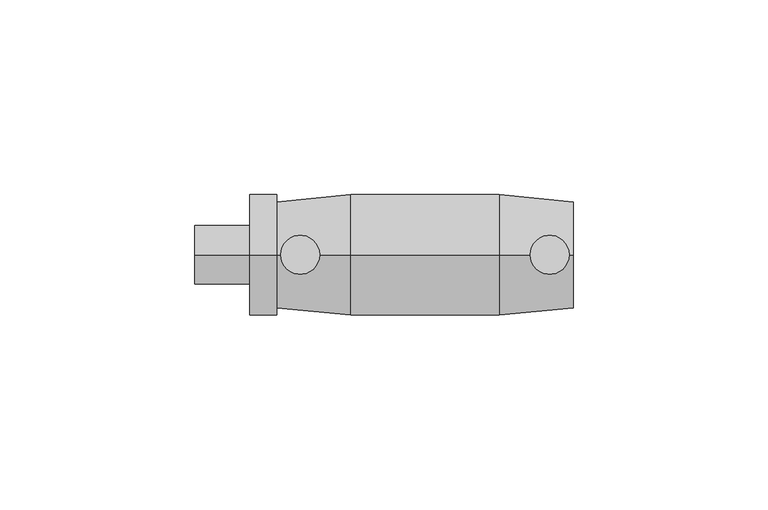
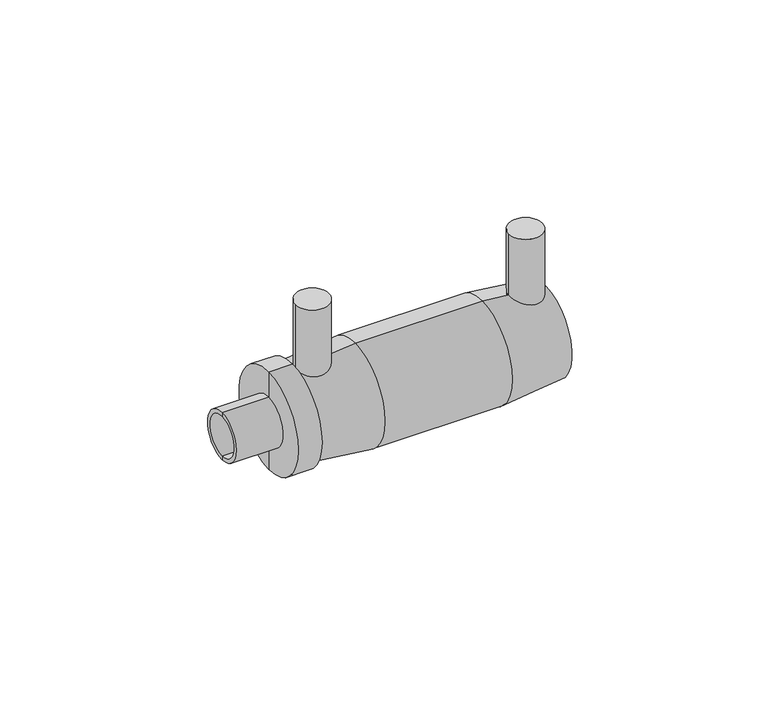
"""IFC4 building model written with IfcOpenShell, lengths in millimetres: pipe fitting geometry, Plumbing_Pipe-Fittings_Plasson_PE-Male-Transition-Coupler_497104 : Plumbing_Pipe-Fittings_Plasson_PE-Male-Transition-Coupler_497104."""

from ifc_helpers import new_model, si_unit, point, frame, frame_2d, origin, place, context, project, spatial, polyline, circle_curve, trimmed, segment, composite_curve, outline, extrude, source, transform, mapped, element, save
from ifc_brep_helpers import plane_surface, cylinder_surface, revolved_surface, advanced_brep


def pipe_fitting_def14755(model_context):
    return source(origin(), model_context, "Body", "SolidModel", [
        advanced_brep(
        [(-38.0, 0.0, -7.0), (-38.0, 0.0, 7.0), (-38.0, 0.0, 10.0), (-38.0, 0.0, -10.0), (-1.0, 0.0, -7.0), (-1.0, 0.0, 7.0), (-1.0, 0.0, -10.0), (-1.0, 0.0, 10.0)],
        [
            (0, 1, circle_curve(frame((-38.0, 0.0, 0.0), z_axis=(1.0, 0.0, 0.0), x_axis=(0.0, 0.0, 1.0)), 7.0)),
            (1, 2),
            (2, 3, circle_curve(frame((-38.0, 0.0, 0.0), z_axis=(-1.0, 0.0, 0.0), x_axis=(0.0, 0.0, 1.0)), 10.0)),
            (3, 0),
            (1, 0, circle_curve(frame((-38.0, 0.0, 0.0), z_axis=(1.0, 0.0, 0.0), x_axis=(0.0, 0.0, 1.0)), 7.0)),
            (3, 2, circle_curve(frame((-38.0, 0.0, 0.0), z_axis=(-1.0, 0.0, 0.0), x_axis=(0.0, 0.0, 1.0)), 10.0)),
            (4, 5, circle_curve(frame((-1.0, 0.0, 0.0), z_axis=(1.0, 0.0, 0.0), x_axis=(0.0, 0.0, 1.0)), 7.0)),
            (5, 1),
            (0, 4),
            (5, 4, circle_curve(frame((-1.0, 0.0, 0.0), z_axis=(1.0, 0.0, 0.0), x_axis=(0.0, 0.0, 1.0)), 7.0)),
            (6, 7, circle_curve(frame((-1.0, 0.0, 0.0), z_axis=(1.0, 0.0, 0.0), x_axis=(0.0, 0.0, 1.0)), 10.0)),
            (7, 5),
            (4, 6),
            (7, 6, circle_curve(frame((-1.0, 0.0, 0.0), z_axis=(1.0, 0.0, 0.0), x_axis=(0.0, 0.0, 1.0)), 10.0)),
            (2, 7),
            (6, 3),
        ],
        [
            plane_surface(frame((-38.0, 0.0, 0.0), z_axis=(-1.0, 0.0, 0.0), x_axis=(0.0, 0.0, 1.0))),
            revolved_surface(polyline([(-38.0, 0.0, 7.0), (-1.0, 0.0, 7.0)]), (-38.0, 0.0, 0.0), (-1.0, 0.0, 0.0)),
            plane_surface(frame((-1.0, 0.0, 0.0), z_axis=(1.0, 0.0, 0.0), x_axis=(0.0, 0.0, 1.0))),
            cylinder_surface(frame((-38.0, 0.0, 0.0), z_axis=(-1.0, 0.0, 0.0), x_axis=(0.0, 0.0, 1.0)), 10.0),
        ],
        [
            (0, [[1, 2, 3, 4]]),
            (0, [[5, -4, 6, -2]]),
            (1, [[7, 8, -1, 9]]),
            (1, [[10, -9, -5, -8]]),
            (2, [[11, 12, -7, 13]]),
            (2, [[14, -13, -10, -12]]),
            (3, [[-3, 15, -11, 16]]),
            (3, [[-6, -16, -14, -15]]),
        ],
    ),
        advanced_brep(
        [(-38.0, 0.0, -6.25), (-38.0, 0.0, 6.25), (-59.0, 0.0, 6.25), (-59.0, 0.0, -6.25), (-38.0, 0.0, -15.5), (-38.0, 0.0, 15.5), (-45.0, 0.0, -15.5), (-45.0, 0.0, 15.5), (-45.0, 0.0, -7.5), (-45.0, 0.0, 7.5), (-59.0, 0.0, -7.5), (-59.0, 0.0, 7.5)],
        [
            (0, 1, circle_curve(frame((-38.0, 0.0, 0.0), z_axis=(1.0, 0.0, 0.0), x_axis=(0.0, 0.0, 1.0)), 6.25)),
            (1, 2),
            (2, 3, circle_curve(frame((-59.0, 0.0, 0.0), z_axis=(-1.0, 0.0, 0.0), x_axis=(0.0, 0.0, 1.0)), 6.25)),
            (3, 0),
            (1, 0, circle_curve(frame((-38.0, 0.0, 0.0), z_axis=(1.0, 0.0, 0.0), x_axis=(0.0, 0.0, 1.0)), 6.25)),
            (3, 2, circle_curve(frame((-59.0, 0.0, 0.0), z_axis=(-1.0, 0.0, 0.0), x_axis=(0.0, 0.0, 1.0)), 6.25)),
            (4, 5, circle_curve(frame((-38.0, 0.0, 0.0), z_axis=(1.0, 0.0, 0.0), x_axis=(0.0, 0.0, 1.0)), 15.5)),
            (5, 1),
            (0, 4),
            (5, 4, circle_curve(frame((-38.0, 0.0, 0.0), z_axis=(1.0, 0.0, 0.0), x_axis=(0.0, 0.0, 1.0)), 15.5)),
            (6, 7, circle_curve(frame((-45.0, 0.0, 0.0), z_axis=(1.0, 0.0, 0.0), x_axis=(0.0, 0.0, 1.0)), 15.5)),
            (7, 5),
            (4, 6),
            (7, 6, circle_curve(frame((-45.0, 0.0, 0.0), z_axis=(1.0, 0.0, 0.0), x_axis=(0.0, 0.0, 1.0)), 15.5)),
            (8, 9, circle_curve(frame((-45.0, 0.0, 0.0), z_axis=(1.0, 0.0, 0.0), x_axis=(0.0, 0.0, 1.0)), 7.5)),
            (9, 7),
            (6, 8),
            (9, 8, circle_curve(frame((-45.0, 0.0, 0.0), z_axis=(1.0, 0.0, 0.0), x_axis=(0.0, 0.0, 1.0)), 7.5)),
            (10, 11, circle_curve(frame((-59.0, 0.0, 0.0), z_axis=(1.0, 0.0, 0.0), x_axis=(0.0, 0.0, 1.0)), 7.5)),
            (11, 9),
            (8, 10),
            (11, 10, circle_curve(frame((-59.0, 0.0, 0.0), z_axis=(1.0, 0.0, 0.0), x_axis=(0.0, 0.0, 1.0)), 7.5)),
            (2, 11),
            (10, 3),
        ],
        [
            revolved_surface(polyline([(-59.0, 0.0, 6.25), (-38.0, 0.0, 6.25)]), (-45.0, 0.0, 0.0), (-1.0, 0.0, 0.0)),
            plane_surface(frame((-38.0, 0.0, 0.0), z_axis=(1.0, 0.0, 0.0), x_axis=(0.0, 0.0, 1.0))),
            cylinder_surface(frame((-45.0, 0.0, 0.0), z_axis=(-1.0, 0.0, 0.0), x_axis=(0.0, 0.0, 1.0)), 15.5),
            plane_surface(frame((-45.0, 0.0, 0.0), z_axis=(-1.0, 0.0, 0.0), x_axis=(0.0, 0.0, 1.0))),
            cylinder_surface(frame((-45.0, 0.0, 0.0), z_axis=(-1.0, 0.0, 0.0), x_axis=(0.0, 0.0, 1.0)), 7.5),
            plane_surface(frame((-59.0, 0.0, 0.0), z_axis=(-1.0, 0.0, 0.0), x_axis=(0.0, 0.0, 1.0))),
        ],
        [
            (0, [[1, 2, 3, 4]]),
            (0, [[5, -4, 6, -2]]),
            (1, [[7, 8, -1, 9]]),
            (1, [[10, -9, -5, -8]]),
            (2, [[11, 12, -7, 13]]),
            (2, [[14, -13, -10, -12]]),
            (3, [[15, 16, -11, 17]]),
            (3, [[18, -17, -14, -16]]),
            (4, [[19, 20, -15, 21]]),
            (4, [[22, -21, -18, -20]]),
            (5, [[-3, 23, -19, 24]]),
            (5, [[-6, -24, -22, -23]]),
        ],
    ),
        extrude(outline(composite_curve([segment(trimmed(circle_curve(frame_2d((-32.0, 0.0)), 5.0), [point((-37.0, 0.0))], [point((-27.0, 0.0))], False, "CARTESIAN"), True, "CONTINUOUS"), segment(trimmed(circle_curve(frame_2d((-32.0, 0.0)), 5.0), [point((-27.0, 0.0))], [point((-37.0, 0.0))], False, "CARTESIAN"), True, "CONTINUOUS")], self_intersect=False)), frame((0.0, 0.0, 12.75), z_axis=(0.0, 0.0, 1.0), x_axis=(1.0, 0.0, 0.0)), (0.0, 0.0, 1.0), 21.25),
        extrude(outline(composite_curve([segment(trimmed(circle_curve(frame_2d((32.0, 0.0)), 5.0), [point((27.0, 0.0))], [point((37.0, 0.0))], False, "CARTESIAN"), True, "CONTINUOUS"), segment(trimmed(circle_curve(frame_2d((32.0, 0.0)), 5.0), [point((37.0, 0.0))], [point((27.0, 0.0))], False, "CARTESIAN"), True, "CONTINUOUS")], self_intersect=False)), frame((0.0, 0.0, 12.75), z_axis=(0.0, 0.0, 1.0), x_axis=(1.0, 0.0, 0.0)), (0.0, 0.0, 1.0), 21.25),
        advanced_brep(
        [(-1.0, 0.0, -10.0), (-1.0, 0.0, 10.0), (-38.0, 0.0, 10.0), (-38.0, 0.0, -10.0), (38.0, 0.0, -13.6666667), (38.0, 0.0, 13.6666667), (38.0, 0.0, 10.0), (38.0, 0.0, -10.0), (-19.0, 0.0, -15.5), (-19.0, 0.0, 15.5), (19.0, 0.0, 15.5), (19.0, 0.0, -15.5), (-38.0, 0.0, 13.6666667), (-38.0, 0.0, -13.6666667), (-1.0, 0.0, -7.0), (-1.0, 0.0, 7.0), (1.0, 0.0, -7.0), (1.0, 0.0, 7.0), (1.0, 0.0, -10.0), (1.0, 0.0, 10.0)],
        [
            (0, 1, circle_curve(frame((-1.0, 0.0, 0.0), z_axis=(1.0, 0.0, 0.0), x_axis=(0.0, 0.0, 1.0)), 10.0)),
            (1, 2),
            (2, 3, circle_curve(frame((-38.0, 0.0, 0.0), z_axis=(-1.0, 0.0, 0.0), x_axis=(0.0, 0.0, 1.0)), 10.0)),
            (3, 0),
            (1, 0, circle_curve(frame((-1.0, 0.0, 0.0), z_axis=(1.0, 0.0, 0.0), x_axis=(0.0, 0.0, 1.0)), 10.0)),
            (3, 2, circle_curve(frame((-38.0, 0.0, 0.0), z_axis=(-1.0, 0.0, 0.0), x_axis=(0.0, 0.0, 1.0)), 10.0)),
            (4, 5, circle_curve(frame((38.0, 0.0, 0.0), z_axis=(1.0, 0.0, 0.0), x_axis=(0.0, 0.0, 1.0)), 13.6666667)),
            (5, 6),
            (6, 7, circle_curve(frame((38.0, 0.0, 0.0), z_axis=(-1.0, 0.0, 0.0), x_axis=(0.0, 0.0, 1.0)), 10.0)),
            (7, 4),
            (5, 4, circle_curve(frame((38.0, 0.0, 0.0), z_axis=(1.0, 0.0, 0.0), x_axis=(0.0, 0.0, 1.0)), 13.6666667)),
            (7, 6, circle_curve(frame((38.0, 0.0, 0.0), z_axis=(-1.0, 0.0, 0.0), x_axis=(0.0, 0.0, 1.0)), 10.0)),
            (8, 9, circle_curve(frame((-19.0, 0.0, 0.0), z_axis=(1.0, 0.0, 0.0), x_axis=(0.0, 0.0, 1.0)), 15.5)),
            (9, 10),
            (10, 11, circle_curve(frame((19.0, 0.0, 0.0), z_axis=(-1.0, 0.0, 0.0), x_axis=(0.0, 0.0, 1.0)), 15.5)),
            (11, 8),
            (9, 8, circle_curve(frame((-19.0, 0.0, 0.0), z_axis=(1.0, 0.0, 0.0), x_axis=(0.0, 0.0, 1.0)), 15.5)),
            (11, 10, circle_curve(frame((19.0, 0.0, 0.0), z_axis=(-1.0, 0.0, 0.0), x_axis=(0.0, 0.0, 1.0)), 15.5)),
            (2, 12),
            (12, 13, circle_curve(frame((-38.0, 0.0, 0.0), z_axis=(-1.0, 0.0, 0.0), x_axis=(0.0, 0.0, 1.0)), 13.6666667)),
            (13, 3),
            (13, 12, circle_curve(frame((-38.0, 0.0, 0.0), z_axis=(-1.0, 0.0, 0.0), x_axis=(0.0, 0.0, 1.0)), 13.6666667)),
            (10, 5),
            (4, 11),
            (12, 9),
            (8, 13),
            (14, 15, circle_curve(frame((-1.0, 0.0, 0.0), z_axis=(1.0, 0.0, 0.0), x_axis=(0.0, 0.0, 1.0)), 7.0)),
            (15, 1),
            (0, 14),
            (15, 14, circle_curve(frame((-1.0, 0.0, 0.0), z_axis=(1.0, 0.0, 0.0), x_axis=(0.0, 0.0, 1.0)), 7.0)),
            (16, 17, circle_curve(frame((1.0, 0.0, 0.0), z_axis=(1.0, 0.0, 0.0), x_axis=(0.0, 0.0, 1.0)), 7.0)),
            (17, 15),
            (14, 16),
            (17, 16, circle_curve(frame((1.0, 0.0, 0.0), z_axis=(1.0, 0.0, 0.0), x_axis=(0.0, 0.0, 1.0)), 7.0)),
            (18, 19, circle_curve(frame((1.0, 0.0, 0.0), z_axis=(1.0, 0.0, 0.0), x_axis=(0.0, 0.0, 1.0)), 10.0)),
            (19, 17),
            (16, 18),
            (19, 18, circle_curve(frame((1.0, 0.0, 0.0), z_axis=(1.0, 0.0, 0.0), x_axis=(0.0, 0.0, 1.0)), 10.0)),
            (6, 19),
            (18, 7),
        ],
        [
            revolved_surface(polyline([(-38.0, 0.0, 10.0), (-1.0, 0.0, 10.0)]), (-38.0, 0.0, 0.0), (-1.0, 0.0, 0.0)),
            plane_surface(frame((38.0, 0.0, 0.0), z_axis=(1.0, 0.0, 0.0), x_axis=(0.0, 0.0, 1.0))),
            cylinder_surface(frame((-38.0, 0.0, 0.0), z_axis=(-1.0, 0.0, 0.0), x_axis=(0.0, 0.0, 1.0)), 15.5),
            plane_surface(frame((-38.0, 0.0, 0.0), z_axis=(-1.0, 0.0, 0.0), x_axis=(0.0, 0.0, 1.0))),
            revolved_surface(polyline([(38.0, 0.0, 13.6666667), (19.0, 0.0, 15.5)]), (-38.0, 0.0, 0.0), (-1.0, 0.0, 0.0)),
            revolved_surface(polyline([(-19.0, 0.0, 15.5), (-38.0, 0.0, 13.6666667)]), (-38.0, 0.0, 0.0), (-1.0, 0.0, 0.0)),
            plane_surface(frame((-1.0, 0.0, 0.0), z_axis=(-1.0, 0.0, 0.0), x_axis=(0.0, 0.0, 1.0))),
            revolved_surface(polyline([(-1.0, 0.0, 7.0), (1.0, 0.0, 7.0)]), (-38.0, 0.0, 0.0), (-1.0, 0.0, 0.0)),
            plane_surface(frame((1.0, 0.0, 0.0), z_axis=(1.0, 0.0, 0.0), x_axis=(0.0, 0.0, 1.0))),
            revolved_surface(polyline([(1.0, 0.0, 10.0), (38.0, 0.0, 10.0)]), (-38.0, 0.0, 0.0), (-1.0, 0.0, 0.0)),
        ],
        [
            (0, [[1, 2, 3, 4]]),
            (0, [[5, -4, 6, -2]]),
            (1, [[7, 8, 9, 10]]),
            (1, [[11, -10, 12, -8]]),
            (2, [[13, 14, 15, 16]]),
            (2, [[17, -16, 18, -14]]),
            (3, [[-3, 19, 20, 21]]),
            (3, [[-6, -21, 22, -19]]),
            (4, [[-15, 23, -7, 24]]),
            (4, [[-18, -24, -11, -23]]),
            (5, [[-20, 25, -13, 26]]),
            (5, [[-22, -26, -17, -25]]),
            (6, [[27, 28, -1, 29]]),
            (6, [[30, -29, -5, -28]]),
            (7, [[31, 32, -27, 33]]),
            (7, [[34, -33, -30, -32]]),
            (8, [[35, 36, -31, 37]]),
            (8, [[38, -37, -34, -36]]),
            (9, [[-9, 39, -35, 40]]),
            (9, [[-12, -40, -38, -39]]),
        ],
    ),
    ])


if __name__ == "__main__":
    model = new_model("IFC4")
    model_context = context("Model", 3, world=origin())
    ifc_project = project(units=[si_unit("LENGTHUNIT", "METRE", prefix="MILLI")], contexts=[model_context])
    site = spatial("IfcSite", under=ifc_project)
    building = spatial("IfcBuilding", under=site)
    placement = place(None, origin())
    pipe_fitting_shape = pipe_fitting_def14755(model_context)
    element("IfcPipeFitting", 1, ObjectType="Plumbing_Pipe-Fittings_Plasson_PE-Male-Transition-Coupler_497104 : Plumbing_Pipe-Fittings_Plasson_PE-Male-Transition-Coupler_497104", at=placement, inside=building, context=model_context, shape_type="MappedRepresentation", body=[
        mapped(pipe_fitting_shape, transform((0.0, 0.0, 0.0), x_axis=(1.0, 0.0, 0.0), y_axis=(0.0, 1.0, 0.0), z_axis=(0.0, 0.0, 1.0))),
    ])
    save(model, "model.ifc")
